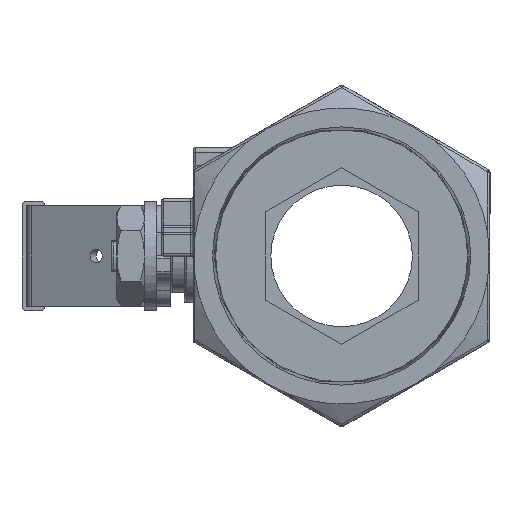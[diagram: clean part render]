
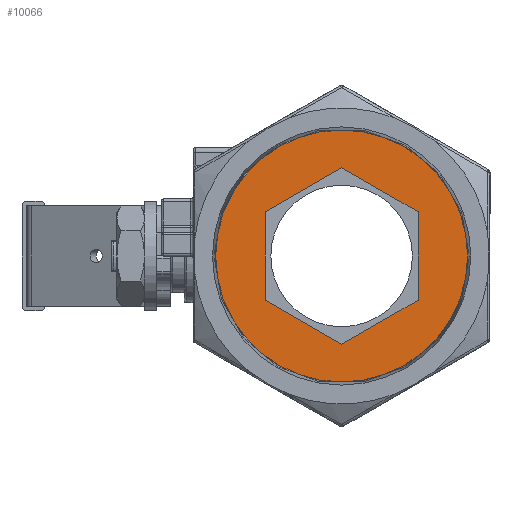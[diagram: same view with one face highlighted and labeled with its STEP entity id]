
A CAD part, left-side view. The second image highlights one B-rep face of the part: STEP entity #10066.
In plain terms, the highlighted planar face has unit normal (-1, 0, 0).
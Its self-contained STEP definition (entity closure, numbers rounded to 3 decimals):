
#9746=CARTESIAN_POINT('',(-32.,16.75,-9.671));
#9747=VERTEX_POINT('',#9746);
#9754=CARTESIAN_POINT('',(-32.,0.,-19.341));
#9755=VERTEX_POINT('',#9754);
#9756=CARTESIAN_POINT('',(-32.,0.,-19.341));
#9757=DIRECTION('',(0.0,0.866,0.5));
#9758=VECTOR('',#9757,19.341);
#9759=LINE('',#9756,#9758);
#9760=EDGE_CURVE('',#9755,#9747,#9759,.T.);
#9785=CARTESIAN_POINT('',(-32.,-16.75,-9.671));
#9786=VERTEX_POINT('',#9785);
#9787=CARTESIAN_POINT('',(-32.,-16.75,-9.671));
#9788=DIRECTION('',(0.0,0.866,-0.5));
#9789=VECTOR('',#9788,19.341);
#9790=LINE('',#9787,#9789);
#9791=EDGE_CURVE('',#9786,#9755,#9790,.T.);
#9816=CARTESIAN_POINT('',(-32.,-16.75,9.671));
#9817=VERTEX_POINT('',#9816);
#9818=CARTESIAN_POINT('',(-32.,-16.75,9.671));
#9819=DIRECTION('',(0.0,0.0,-1.0));
#9820=VECTOR('',#9819,19.341);
#9821=LINE('',#9818,#9820);
#9822=EDGE_CURVE('',#9817,#9786,#9821,.T.);
#9847=CARTESIAN_POINT('',(-32.,0.,19.341));
#9848=VERTEX_POINT('',#9847);
#9849=CARTESIAN_POINT('',(-32.,0.,19.341));
#9850=DIRECTION('',(0.0,-0.866,-0.5));
#9851=VECTOR('',#9850,19.341);
#9852=LINE('',#9849,#9851);
#9853=EDGE_CURVE('',#9848,#9817,#9852,.T.);
#9878=CARTESIAN_POINT('',(-32.,16.75,9.671));
#9879=VERTEX_POINT('',#9878);
#9880=CARTESIAN_POINT('',(-32.,16.75,9.671));
#9881=DIRECTION('',(0.0,-0.866,0.5));
#9882=VECTOR('',#9881,19.341);
#9883=LINE('',#9880,#9882);
#9884=EDGE_CURVE('',#9879,#9848,#9883,.T.);
#9907=CARTESIAN_POINT('',(-32.,16.75,-9.671));
#9908=DIRECTION('',(0.0,0.0,1.0));
#9909=VECTOR('',#9908,19.341);
#9910=LINE('',#9907,#9909);
#9911=EDGE_CURVE('',#9747,#9879,#9910,.T.);
#10027=CARTESIAN_POINT('',(-32.0,-27.584,0.));
#10028=VERTEX_POINT('',#10027);
#10029=CARTESIAN_POINT('',(-32.,0.,0.));
#10030=DIRECTION('',(-1.0,0.0,0.0));
#10031=DIRECTION('',(0.0,-1.0,0.0));
#10032=AXIS2_PLACEMENT_3D('',#10029,#10030,#10031);
#10033=CIRCLE('',#10032,27.584);
#10034=EDGE_CURVE('',#10028,#10028,#10033,.T.);
#10050=CARTESIAN_POINT('',(-32.,0.,0.));
#10051=DIRECTION('',(-1.0,0.0,0.0));
#10052=DIRECTION('',(0.0,-1.0,0.0));
#10053=AXIS2_PLACEMENT_3D('',#10050,#10051,#10052);
#10054=PLANE('',#10053);
#10055=ORIENTED_EDGE('',*,*,#10034,.T.);
#10056=EDGE_LOOP('',(#10055));
#10057=FACE_OUTER_BOUND('',#10056,.T.);
#10058=ORIENTED_EDGE('',*,*,#9760,.T.);
#10059=ORIENTED_EDGE('',*,*,#9911,.T.);
#10060=ORIENTED_EDGE('',*,*,#9884,.T.);
#10061=ORIENTED_EDGE('',*,*,#9853,.T.);
#10062=ORIENTED_EDGE('',*,*,#9822,.T.);
#10063=ORIENTED_EDGE('',*,*,#9791,.T.);
#10064=EDGE_LOOP('',(#10058,#10059,#10060,#10061,#10062,#10063));
#10065=FACE_BOUND('',#10064,.T.);
#10066=ADVANCED_FACE('',(#10057,#10065),#10054,.T.);
